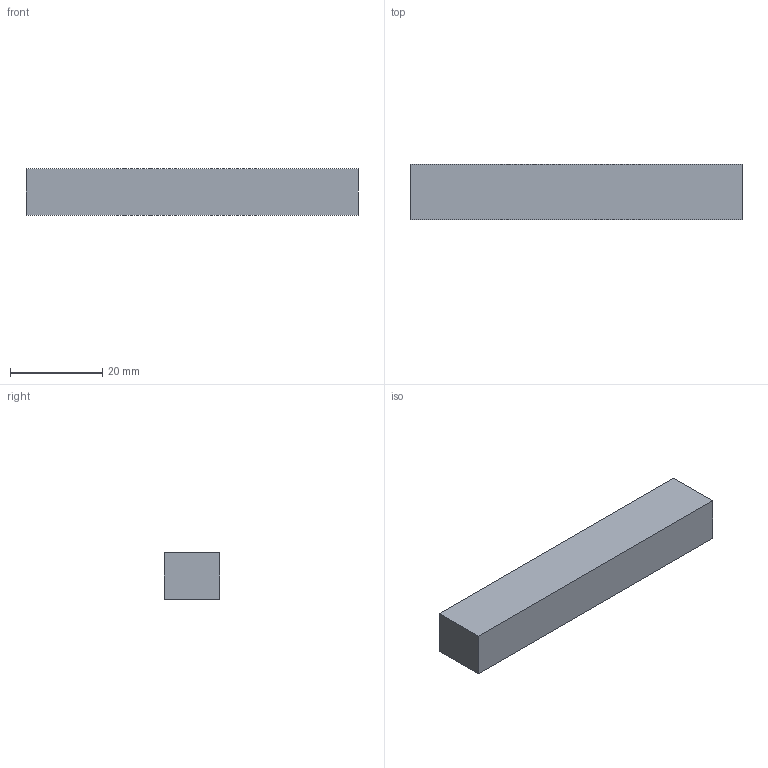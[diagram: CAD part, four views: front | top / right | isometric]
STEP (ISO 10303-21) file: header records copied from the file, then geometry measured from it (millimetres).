
FILE_DESCRIPTION(('Open CASCADE Model'),'2;1');
FILE_NAME('Open CASCADE Shape Model','2026-10-20T13:19:35',('Author'),( 'Open CASCADE'),'Open CASCADE STEP processor 7.9','Open CASCADE 7.9' ,'Unknown');
FILE_SCHEMA(('AUTOMOTIVE_DESIGN { 1 0 10303 214 1 1 1 1 }'));
Length unit declared in the file: millimetre
Products named in the file (1): Open CASCADE STEP translator 7.9 75
Bounding box: 72 x 12 x 10 mm (x, y, z)
Volume: 8640 mm3; surface area: 3408 mm2
Topology: 1 solids, 1 shells, 6 faces, 12 edges, 8 vertices
Faces by surface type: plane 6
Entity records: 322 total; most frequent: CARTESIAN_POINT 51, DIRECTION 50, LINE 36, VECTOR 36, ORIENTED_EDGE 24, PCURVE 24, DEFINITIONAL_REPRESENTATION 24, EDGE_CURVE 12
